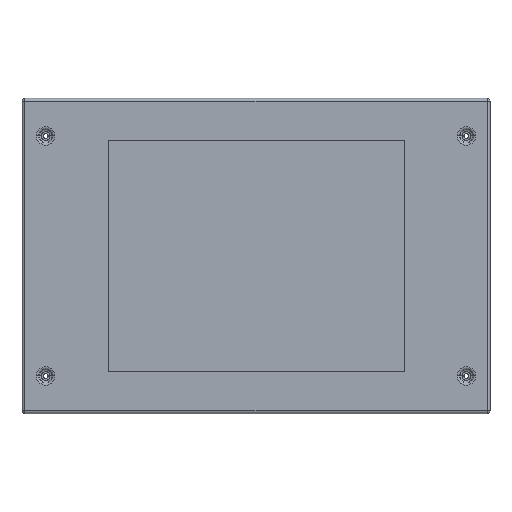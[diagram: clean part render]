
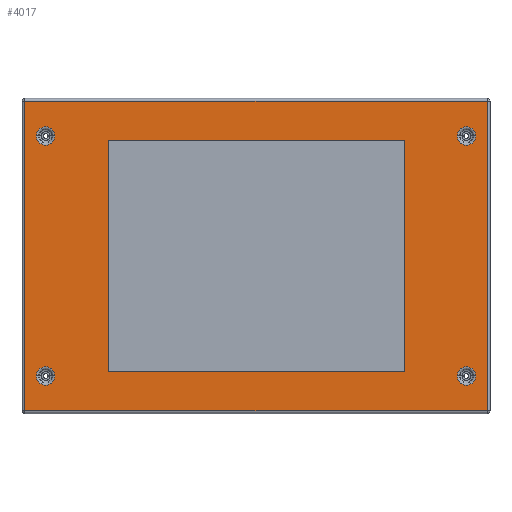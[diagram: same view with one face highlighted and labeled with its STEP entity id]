
A CAD part, top view. The second image highlights one B-rep face of the part: STEP entity #4017.
In plain terms, the highlighted planar face has unit normal (0, 0, 1).
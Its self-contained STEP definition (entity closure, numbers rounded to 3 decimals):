
#54 = CIRCLE ( 'NONE', #1835, 11.45 ) ;
#101 = CIRCLE ( 'NONE', #1855, 11.45 ) ;
#105 = CIRCLE ( 'NONE', #1831, 11.45 ) ;
#108 = CIRCLE ( 'NONE', #1849, 11.45 ) ;
#194 = ORIENTED_EDGE ( 'NONE', *, *, #3864, .T. ) ;
#200 = ORIENTED_EDGE ( 'NONE', *, *, #3830, .T. ) ;
#203 = ORIENTED_EDGE ( 'NONE', *, *, #4114, .T. ) ;
#212 = ORIENTED_EDGE ( 'NONE', *, *, #4115, .T. ) ;
#213 = ORIENTED_EDGE ( 'NONE', *, *, #3827, .T. ) ;
#222 = ORIENTED_EDGE ( 'NONE', *, *, #3840, .T. ) ;
#224 = ORIENTED_EDGE ( 'NONE', *, *, #4099, .T. ) ;
#225 = ORIENTED_EDGE ( 'NONE', *, *, #3841, .T. ) ;
#232 = ORIENTED_EDGE ( 'NONE', *, *, #3854, .T. ) ;
#239 = ORIENTED_EDGE ( 'NONE', *, *, #3845, .T. ) ;
#240 = ORIENTED_EDGE ( 'NONE', *, *, #4119, .T. ) ;
#255 = ORIENTED_EDGE ( 'NONE', *, *, #3872, .T. ) ;
#294 = VERTEX_POINT ( 'NONE', #4694 ) ;
#299 = VERTEX_POINT ( 'NONE', #4689 ) ;
#318 = VERTEX_POINT ( 'NONE', #4670 ) ;
#325 = VERTEX_POINT ( 'NONE', #4663 ) ;
#334 = VERTEX_POINT ( 'NONE', #4654 ) ;
#339 = VERTEX_POINT ( 'NONE', #4649 ) ;
#342 = VERTEX_POINT ( 'NONE', #4646 ) ;
#344 = VERTEX_POINT ( 'NONE', #4644 ) ;
#352 = VERTEX_POINT ( 'NONE', #4636 ) ;
#357 = VERTEX_POINT ( 'NONE', #4631 ) ;
#366 = VERTEX_POINT ( 'NONE', #4622 ) ;
#440 = VERTEX_POINT ( 'NONE', #4548 ) ;
#447 = VERTEX_POINT ( 'NONE', #4541 ) ;
#454 = VERTEX_POINT ( 'NONE', #4534 ) ;
#473 = VERTEX_POINT ( 'NONE', #4515 ) ;
#486 = VERTEX_POINT ( 'NONE', #4502 ) ;
#661 = EDGE_LOOP ( 'NONE', ( #240, #255 ) ) ;
#682 = EDGE_LOOP ( 'NONE', ( #224, #239 ) ) ;
#686 = EDGE_LOOP ( 'NONE', ( #1014, #1016, #1015, #1017 ) ) ;
#687 = EDGE_LOOP ( 'NONE', ( #203, #225 ) ) ;
#688 = EDGE_LOOP ( 'NONE', ( #212, #213 ) ) ;
#695 = EDGE_LOOP ( 'NONE', ( #194, #222, #200, #232 ) ) ;
#1014 = ORIENTED_EDGE ( 'NONE', *, *, #3832, .T. ) ;
#1015 = ORIENTED_EDGE ( 'NONE', *, *, #4154, .T. ) ;
#1016 = ORIENTED_EDGE ( 'NONE', *, *, #3821, .T. ) ;
#1017 = ORIENTED_EDGE ( 'NONE', *, *, #4187, .T. ) ;
#1163 = FACE_BOUND ( 'NONE', #661, .T. ) ;
#1165 = FACE_BOUND ( 'NONE', #682, .T. ) ;
#1167 = FACE_BOUND ( 'NONE', #687, .T. ) ;
#1168 = AXIS2_PLACEMENT_3D ( 'NONE', #2721, #2720, #2719 ) ;
#1176 = FACE_OUTER_BOUND ( 'NONE', #686, .T. ) ;
#1196 = FACE_BOUND ( 'NONE', #695, .T. ) ;
#1198 = FACE_BOUND ( 'NONE', #688, .T. ) ;
#1509 = AXIS2_PLACEMENT_3D ( 'NONE', #3223, #3207, #3206 ) ;
#1514 = VECTOR ( 'NONE', #3229, 1000. ) ;
#1526 = VECTOR ( 'NONE', #3259, 1000. ) ;
#1537 = AXIS2_PLACEMENT_3D ( 'NONE', #3298, #3288, #3287 ) ;
#1539 = VECTOR ( 'NONE', #3301, 1000. ) ;
#1540 = AXIS2_PLACEMENT_3D ( 'NONE', #3304, #3300, #3299 ) ;
#1548 = VECTOR ( 'NONE', #3325, 1000. ) ;
#1550 = VECTOR ( 'NONE', #3331, 1000. ) ;
#1556 = AXIS2_PLACEMENT_3D ( 'NONE', #3355, #3342, #3341 ) ;
#1558 = VECTOR ( 'NONE', #3358, 1000. ) ;
#1831 = AXIS2_PLACEMENT_3D ( 'NONE', #2417, #2416, #2415 ) ;
#1835 = AXIS2_PLACEMENT_3D ( 'NONE', #2465, #2464, #2463 ) ;
#1849 = AXIS2_PLACEMENT_3D ( 'NONE', #2432, #2419, #2418 ) ;
#1855 = AXIS2_PLACEMENT_3D ( 'NONE', #2405, #2404, #2403 ) ;
#1892 = VECTOR ( 'NONE', #2297, 1000. ) ;
#1923 = VECTOR ( 'NONE', #2198, 1000. ) ;
#2198 = DIRECTION ( 'NONE',  ( 0., -1., 0. ) ) ;
#2199 = CARTESIAN_POINT ( 'NONE',  ( -289., -197., 0. ) ) ;
#2200 = LINE ( 'NONE', #2199, #1923 ) ;
#2297 = DIRECTION ( 'NONE',  ( -1., 0., 0. ) ) ;
#2298 = CARTESIAN_POINT ( 'NONE',  ( -292.5, 193.5, 0. ) ) ;
#2299 = LINE ( 'NONE', #2298, #1892 ) ;
#2403 = DIRECTION ( 'NONE',  ( -1., 0., 0. ) ) ;
#2404 = DIRECTION ( 'NONE',  ( 0., 0., -1. ) ) ;
#2405 = CARTESIAN_POINT ( 'NONE',  ( -263., 150., 0. ) ) ;
#2415 = DIRECTION ( 'NONE',  ( -1., 0., 0. ) ) ;
#2416 = DIRECTION ( 'NONE',  ( 0., 0., -1. ) ) ;
#2417 = CARTESIAN_POINT ( 'NONE',  ( 263., -150., 0. ) ) ;
#2418 = DIRECTION ( 'NONE',  ( -1., 0., 0. ) ) ;
#2419 = DIRECTION ( 'NONE',  ( 0., 0., -1. ) ) ;
#2432 = CARTESIAN_POINT ( 'NONE',  ( 263., 150., 0. ) ) ;
#2463 = DIRECTION ( 'NONE',  ( -1., 0., 0. ) ) ;
#2464 = DIRECTION ( 'NONE',  ( 0., 0., -1. ) ) ;
#2465 = CARTESIAN_POINT ( 'NONE',  ( -263., -150., 0. ) ) ;
#2719 = DIRECTION ( 'NONE',  ( -1., 0., 0. ) ) ;
#2720 = DIRECTION ( 'NONE',  ( 0., 0., -1. ) ) ;
#2721 = CARTESIAN_POINT ( 'NONE',  ( 0., 0., 0. ) ) ;
#2722 = PLANE ( 'NONE',  #1168 ) ;
#3206 = DIRECTION ( 'NONE',  ( -1., 0., 0. ) ) ;
#3207 = DIRECTION ( 'NONE',  ( 0., 0., -1. ) ) ;
#3223 = CARTESIAN_POINT ( 'NONE',  ( -263., 150., 0. ) ) ;
#3229 = DIRECTION ( 'NONE',  ( -1., 0., 0. ) ) ;
#3230 = CARTESIAN_POINT ( 'NONE',  ( 0., -144.5, 0. ) ) ;
#3231 = LINE ( 'NONE', #3230, #1514 ) ;
#3259 = DIRECTION ( 'NONE',  ( 0., -1., 0. ) ) ;
#3260 = CARTESIAN_POINT ( 'NONE',  ( 185., 0., 0. ) ) ;
#3261 = LINE ( 'NONE', #3260, #1526 ) ;
#3287 = DIRECTION ( 'NONE',  ( -1., 0., 0. ) ) ;
#3288 = DIRECTION ( 'NONE',  ( 0., 0., -1. ) ) ;
#3298 = CARTESIAN_POINT ( 'NONE',  ( -263., -150., 0. ) ) ;
#3299 = DIRECTION ( 'NONE',  ( -1., 0., 0. ) ) ;
#3300 = DIRECTION ( 'NONE',  ( 0., 0., -1. ) ) ;
#3301 = DIRECTION ( 'NONE',  ( 0., 1., 0. ) ) ;
#3302 = CARTESIAN_POINT ( 'NONE',  ( -185., 0., 0. ) ) ;
#3303 = LINE ( 'NONE', #3302, #1539 ) ;
#3304 = CARTESIAN_POINT ( 'NONE',  ( 263., 150., 0. ) ) ;
#3325 = DIRECTION ( 'NONE',  ( 1., 0., 0. ) ) ;
#3326 = CARTESIAN_POINT ( 'NONE',  ( 292.5, -193.5, 0. ) ) ;
#3327 = LINE ( 'NONE', #3326, #1548 ) ;
#3331 = DIRECTION ( 'NONE',  ( 1., 0., 0. ) ) ;
#3332 = CARTESIAN_POINT ( 'NONE',  ( 0., 144.5, 0. ) ) ;
#3333 = LINE ( 'NONE', #3332, #1550 ) ;
#3341 = DIRECTION ( 'NONE',  ( -1., 0., 0. ) ) ;
#3342 = DIRECTION ( 'NONE',  ( 0., 0., -1. ) ) ;
#3355 = CARTESIAN_POINT ( 'NONE',  ( 263., -150., 0. ) ) ;
#3358 = DIRECTION ( 'NONE',  ( 0., 1., 0. ) ) ;
#3359 = CARTESIAN_POINT ( 'NONE',  ( 289., 197., 0. ) ) ;
#3360 = LINE ( 'NONE', #3359, #1558 ) ;
#3602 = CIRCLE ( 'NONE', #1509, 11.45 ) ;
#3608 = CIRCLE ( 'NONE', #1537, 11.45 ) ;
#3609 = CIRCLE ( 'NONE', #1540, 11.45 ) ;
#3612 = CIRCLE ( 'NONE', #1556, 11.45 ) ;
#3821 = EDGE_CURVE ( 'NONE', #344, #342, #3360, .T. ) ;
#3827 = EDGE_CURVE ( 'NONE', #334, #299, #3612, .T. ) ;
#3830 = EDGE_CURVE ( 'NONE', #440, #447, #3333, .T. ) ;
#3832 = EDGE_CURVE ( 'NONE', #318, #344, #3327, .T. ) ;
#3840 = EDGE_CURVE ( 'NONE', #294, #440, #3303, .T. ) ;
#3841 = EDGE_CURVE ( 'NONE', #339, #352, #3609, .T. ) ;
#3845 = EDGE_CURVE ( 'NONE', #357, #366, #3608, .T. ) ;
#3854 = EDGE_CURVE ( 'NONE', #447, #486, #3261, .T. ) ;
#3864 = EDGE_CURVE ( 'NONE', #486, #294, #3231, .T. ) ;
#3872 = EDGE_CURVE ( 'NONE', #325, #473, #3602, .T. ) ;
#4017 = ADVANCED_FACE ( 'NONE', ( #1196, #1198, #1167, #1165, #1163, #1176 ), #2722, .F. ) ;
#4099 = EDGE_CURVE ( 'NONE', #366, #357, #54, .T. ) ;
#4114 = EDGE_CURVE ( 'NONE', #352, #339, #108, .T. ) ;
#4115 = EDGE_CURVE ( 'NONE', #299, #334, #105, .T. ) ;
#4119 = EDGE_CURVE ( 'NONE', #473, #325, #101, .T. ) ;
#4154 = EDGE_CURVE ( 'NONE', #342, #454, #2299, .T. ) ;
#4187 = EDGE_CURVE ( 'NONE', #454, #318, #2200, .T. ) ;
#4502 = CARTESIAN_POINT ( 'NONE',  ( 185., -144.5, 0. ) ) ;
#4515 = CARTESIAN_POINT ( 'NONE',  ( -274.45, 150., 0. ) ) ;
#4534 = CARTESIAN_POINT ( 'NONE',  ( -289., 193.5, 0. ) ) ;
#4541 = CARTESIAN_POINT ( 'NONE',  ( 185., 144.5, 0. ) ) ;
#4548 = CARTESIAN_POINT ( 'NONE',  ( -185., 144.5, 0. ) ) ;
#4622 = CARTESIAN_POINT ( 'NONE',  ( -274.45, -150., 0. ) ) ;
#4631 = CARTESIAN_POINT ( 'NONE',  ( -251.55, -150., 0. ) ) ;
#4636 = CARTESIAN_POINT ( 'NONE',  ( 251.55, 150., 0. ) ) ;
#4644 = CARTESIAN_POINT ( 'NONE',  ( 289., -193.5, 0. ) ) ;
#4646 = CARTESIAN_POINT ( 'NONE',  ( 289., 193.5, 0. ) ) ;
#4649 = CARTESIAN_POINT ( 'NONE',  ( 274.45, 150., 0. ) ) ;
#4654 = CARTESIAN_POINT ( 'NONE',  ( 274.45, -150., 0. ) ) ;
#4663 = CARTESIAN_POINT ( 'NONE',  ( -251.55, 150., 0. ) ) ;
#4670 = CARTESIAN_POINT ( 'NONE',  ( -289., -193.5, 0. ) ) ;
#4689 = CARTESIAN_POINT ( 'NONE',  ( 251.55, -150., 0. ) ) ;
#4694 = CARTESIAN_POINT ( 'NONE',  ( -185., -144.5, 0. ) ) ;
